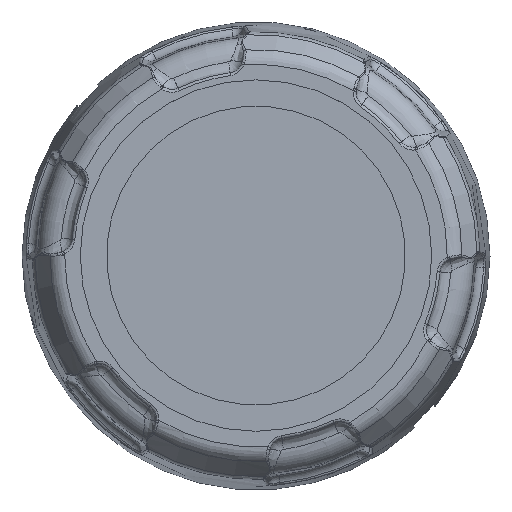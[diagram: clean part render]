
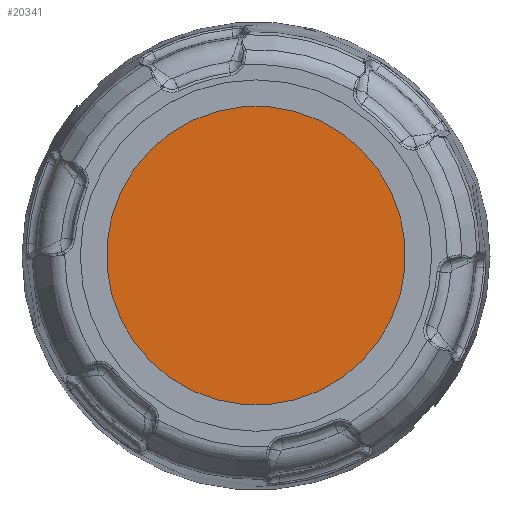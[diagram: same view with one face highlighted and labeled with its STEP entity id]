
A CAD part, top view. The second image highlights one B-rep face of the part: STEP entity #20341.
In plain terms, the highlighted planar face has unit normal (0, 0, 1).
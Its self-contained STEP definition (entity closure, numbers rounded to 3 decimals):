
#6984=CARTESIAN_POINT('',(0.,0.,38.625));
#6985=DIRECTION('',(0.,0.,1.));
#6986=DIRECTION('',(0.707,-0.707,0.));
#6987=AXIS2_PLACEMENT_3D('',#6984,#6985,#6986);
#6992=CARTESIAN_POINT('',(0.,0.,38.625));
#6993=DIRECTION('',(0.,0.,1.));
#6994=DIRECTION('',(-0.707,0.707,0.));
#6995=AXIS2_PLACEMENT_3D('',#6992,#6993,#6994);
#10168=CARTESIAN_POINT('',(18.031,-18.031,38.625));
#10169=CARTESIAN_POINT('',(-18.031,18.031,38.625));
#10170=VERTEX_POINT('',#10168);
#10171=VERTEX_POINT('',#10169);
#20332=CARTESIAN_POINT('',(0.,0.,38.625));
#20333=DIRECTION('',(0.,0.,1.));
#20334=DIRECTION('',(-0.707,-0.707,0.));
#20335=AXIS2_PLACEMENT_3D('',#20332,#20333,#20334);
#20336=PLANE('',#20335);
#20337=ORIENTED_EDGE('',*,*,#20312,.F.);
#20338=ORIENTED_EDGE('',*,*,#20326,.F.);
#20339=EDGE_LOOP('',(#20337,#20338));
#20340=FACE_OUTER_BOUND('',#20339,.F.);
#6988=CIRCLE('',#6987,25.5);
#6996=CIRCLE('',#6995,25.5);
#20312=EDGE_CURVE('',#10170,#10171,#6988,.T.);
#20326=EDGE_CURVE('',#10171,#10170,#6996,.T.);
#20341=ADVANCED_FACE('',(#20340),#20336,.T.);
